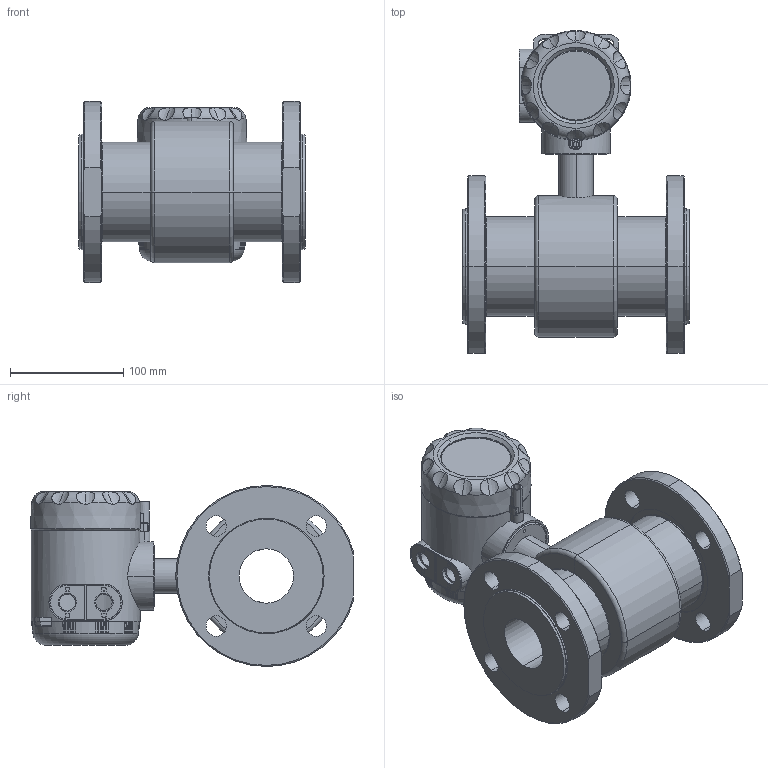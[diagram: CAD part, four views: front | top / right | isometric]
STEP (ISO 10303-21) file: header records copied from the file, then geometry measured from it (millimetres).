
FILE_DESCRIPTION (( 'STEP AP214' ), '1' );
FILE_NAME ('ﾏ頸褞ⅴ ﾏﾐﾎ50.STEP', '2021-07-23T12:48:28', ( '' ), ( '' ), 'SwSTEP 2.0', 'SolidWorks 2016', '' );
FILE_SCHEMA (( 'AUTOMOTIVE_DESIGN' ));
Length unit declared in the file: millimetre
Products named in the file (1): ﾏ頸褞ⅴ ﾏﾐﾎ50
Bounding box: 200 x 285.34 x 160 mm (x, y, z)
Surface area: 261383.8 mm2 (no closed solid volume)
Topology: 0 solids, 18 shells, 453 faces, 1476 edges, 1007 vertices
Faces by surface type: plane 162, cone 117, cylinder 108, torus 53, bspline 9, sphere 4
Entity records: 23146 total; most frequent: CARTESIAN_POINT 5455, DIRECTION 2800, ORIENTED_EDGE 2302, EDGE_CURVE 1471, AXIS2_PLACEMENT_3D 1077, VERTEX_POINT 1007, LINE 646, VECTOR 646
